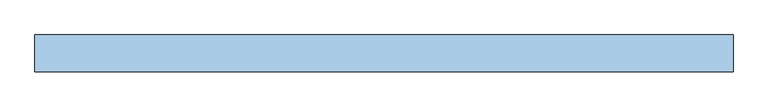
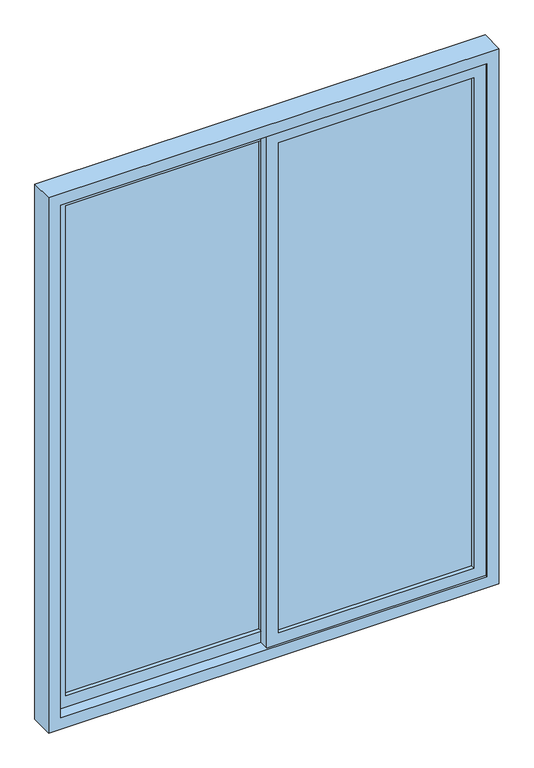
"""IFC4 building model written with IfcOpenShell, lengths in millimetres: window geometry, 雙開落地窗- (1) : 1FL_北面_左側_雙開落地窗_227 x 285cm."""

import ifcopenshell
import ifcopenshell.guid

model = None  # the IFC model being written
_history = None  # IfcOwnerHistory: only IFC2X3 demands one
_inside = {}  # id of a spatial element -> (the spatial element, [elements in it])
_under = {}  # id of a project, library or spatial element -> (it, [spatial elements below it])
_declared = {}  # id of a project -> (the project, [libraries it declares])
_typed = {}  # id of a type object -> (the type object, [elements of that type])
_made_of = {}  # id of a material, layer set ... -> (it, [elements and type objects made of it])


def new_model(schema):
    """Start an empty IFC model of exactly this schema.

    Asked for "IFC4X3", IfcOpenShell would pick the latest addendum, in which some entities
    have other attributes; the version numbers below select the first issue.
    IFC2X3 requires an IfcOwnerHistory on every rooted entity: one is made here for all.
    """
    global model, _history
    if schema == "IFC4X3":
        model = ifcopenshell.file(schema_version=(4, 3, 0, 0))
    else:
        model = ifcopenshell.file(schema=schema)
    _inside.clear()
    _under.clear()
    _declared.clear()
    _typed.clear()
    _made_of.clear()
    _history = None
    if model.schema == "IFC2X3":
        org = make("IfcOrganization", Name="unknown")
        user = make(
            "IfcPersonAndOrganization",
            ThePerson=make("IfcPerson", FamilyName="unknown"),
            TheOrganization=org,
        )
        app = make(
            "IfcApplication",
            ApplicationDeveloper=org,
            Version="unknown",
            ApplicationFullName="unknown",
            ApplicationIdentifier="unknown",
        )
        _history = make(
            "IfcOwnerHistory",
            OwningUser=user,
            OwningApplication=app,
            ChangeAction="ADDED",
            CreationDate=0,
        )
    return model


def make(cls, **values):
    """One entity of the class cls with the attributes given. An attribute that is None is left unset."""
    return model.create_entity(
        cls, **{name: value for name, value in values.items() if value is not None}
    )


def rooted(cls, **values):
    """An entity with a GlobalId (a new one), such as an element, a storey or a relation."""
    return make(cls, GlobalId=ifcopenshell.guid.new(), OwnerHistory=_history, **values)


def si_unit(unit_type, name, prefix=None):
    """IfcSIUnit, for example si_unit("LENGTHUNIT", "METRE", prefix="MILLI")."""
    return make("IfcSIUnit", UnitType=unit_type, Prefix=prefix, Name=name)


def assignment(units):
    """IfcUnitAssignment: the units of a project."""
    return None if units is None else make("IfcUnitAssignment", Units=units)


def point(xyz):
    """IfcCartesianPoint."""
    return None if xyz is None else make("IfcCartesianPoint", Coordinates=xyz)


def direction(xyz):
    """IfcDirection."""
    return None if xyz is None else make("IfcDirection", DirectionRatios=xyz)


def frame(location, z_axis=None, x_axis=None):
    """IfcAxis2Placement3D, a coordinate frame: its origin and axes. An axis left out is left unset."""
    return make(
        "IfcAxis2Placement3D",
        Location=point(location),
        Axis=direction(z_axis),
        RefDirection=direction(x_axis),
    )


def origin():
    """The frame at (0, 0, 0) with its axes left unset."""
    return frame((0.0, 0.0, 0.0))


def place(relative_to, where):
    """IfcLocalPlacement: puts the frame where relative to a parent placement (None: the world)."""
    return make(
        "IfcLocalPlacement", PlacementRelTo=relative_to, RelativePlacement=where
    )


def context(
    kind, dimensions, precision=None, world=None, true_north=None, identifier=None
):
    """IfcGeometricRepresentationContext, for example the 3D "Model" context."""
    return make(
        "IfcGeometricRepresentationContext",
        ContextIdentifier=identifier,
        ContextType=kind,
        CoordinateSpaceDimension=dimensions,
        Precision=precision,
        WorldCoordinateSystem=world,
        TrueNorth=true_north,
    )


def project(units=None, contexts=None):
    """IfcProject with its units and contexts."""
    return rooted(
        "IfcProject",
        Name="project",
        RepresentationContexts=contexts,
        UnitsInContext=assignment(units),
    )


def spatial(cls, under=None, at=None, **own):
    """A site, building, storey or space (cls), placed at a placement, below another one or the project."""
    s = rooted(cls, ObjectPlacement=at, **own)
    if under is not None:
        _under.setdefault(under.id(), (under, []))[1].append(s)
    return s


def polyline(points):
    """IfcPolyline through the points."""
    return make("IfcPolyline", Points=[point(p) for p in points])


def outline(outer, holes=None, kind="AREA"):
    """IfcArbitraryClosedProfileDef: a profile drawn as a closed curve; with holes, ...WithVoids."""
    if holes is None:
        return make("IfcArbitraryClosedProfileDef", ProfileType=kind, OuterCurve=outer)
    return make(
        "IfcArbitraryProfileDefWithVoids",
        ProfileType=kind,
        OuterCurve=outer,
        InnerCurves=holes,
    )


def extrude(swept, where, along, depth):
    """IfcExtrudedAreaSolid: the profile swept, set in the frame where, extruded along a direction by depth."""
    return make(
        "IfcExtrudedAreaSolid",
        SweptArea=swept,
        Position=where,
        ExtrudedDirection=direction(along),
        Depth=depth,
    )


def shape(context_of_items, identifier, shape_type, items):
    """IfcShapeRepresentation: the items that make up one representation, for example the "Body"."""
    return make(
        "IfcShapeRepresentation",
        ContextOfItems=context_of_items,
        RepresentationIdentifier=identifier,
        RepresentationType=shape_type,
        Items=items,
    )


def source(mapping_origin, context_of_items, identifier, shape_type, items):
    """IfcRepresentationMap: a shape defined once, which mapped items show again and again."""
    return make(
        "IfcRepresentationMap",
        MappingOrigin=mapping_origin,
        MappedRepresentation=shape(context_of_items, identifier, shape_type, items),
    )


def transform(
    local_origin,
    x_axis=None,
    y_axis=None,
    z_axis=None,
    scale=None,
    scale2=None,
    scale3=None,
    uniform=True,
):
    """IfcCartesianTransformationOperator3D, or its non-uniform kind. x_axis, y_axis, z_axis: its Axis1, 2, 3."""
    if uniform:
        return make(
            "IfcCartesianTransformationOperator3D",
            Axis1=direction(x_axis),
            Axis2=direction(y_axis),
            LocalOrigin=point(local_origin),
            Scale=scale,
            Axis3=direction(z_axis),
        )
    return make(
        "IfcCartesianTransformationOperator3DnonUniform",
        Axis1=direction(x_axis),
        Axis2=direction(y_axis),
        LocalOrigin=point(local_origin),
        Scale=scale,
        Axis3=direction(z_axis),
        Scale2=scale2,
        Scale3=scale3,
    )


def mapped(mapping_source, mapping_target):
    """IfcMappedItem: shows the shape of a source again, moved by a transform."""
    return make(
        "IfcMappedItem", MappingSource=mapping_source, MappingTarget=mapping_target
    )


def made_of(thing, what):
    """Note that an element or type object is made of a material, layer set ...; save() writes the relation."""
    if what is not None:
        _made_of.setdefault(what.id(), (what, []))[1].append(thing)
    return thing


def element(
    cls,
    number,
    at=None,
    inside=None,
    cuts=None,
    type_object=None,
    material=None,
    context=None,
    identifier="Body",
    shape_type=None,
    held_by="IfcProductDefinitionShape",
    body=None,
    shapes=None,
    **own,
):
    """One element of the class cls, such as IfcWall. Its Tag is "e" and its number.

    at: its placement. inside: the storey or other place that contains it. cuts: it is an
    opening in that element (IfcRelVoidsElement). A single representation is given by context,
    identifier, shape_type and body (its items); several are given by shapes. held_by: the class
    of the entity that holds the representations. save() writes the other relations.
    """
    e = rooted(cls, Tag="e%d" % number, ObjectPlacement=at, **own)
    if body is not None:
        shapes = [shape(context, identifier, shape_type, body)]
    if shapes is not None:
        e.Representation = make(held_by, Representations=shapes)
    if inside is not None:
        _inside.setdefault(inside.id(), (inside, []))[1].append(e)
    if cuts is not None:
        rooted(
            "IfcRelVoidsElement", RelatingBuildingElement=cuts, RelatedOpeningElement=e
        )
    if type_object is not None:
        _typed.setdefault(type_object.id(), (type_object, []))[1].append(e)
    return made_of(e, material)


def aggregate(whole, parts):
    """IfcRelAggregates: a whole, such as a stair, and the parts it consists of."""
    return rooted("IfcRelAggregates", RelatingObject=whole, RelatedObjects=parts)


def save(model, path):
    """Write the relations noted so far, then the file.

    IfcRelAggregates (storeys below a building ...), IfcRelContainedInSpatialStructure (elements
    in a storey), IfcRelDefinesByType, IfcRelAssociatesMaterial and IfcRelDeclares: one each for
    every whole, place, type object, material and project.
    """
    for whole, parts in _under.values():
        aggregate(whole, parts)
    for where, things in _inside.values():
        rooted(
            "IfcRelContainedInSpatialStructure",
            RelatedElements=things,
            RelatingStructure=where,
        )
    for kind, things in _typed.values():
        rooted("IfcRelDefinesByType", RelatedObjects=things, RelatingType=kind)
    for what, things in _made_of.values():
        rooted("IfcRelAssociatesMaterial", RelatedObjects=things, RelatingMaterial=what)
    for by, libraries in _declared.values():
        rooted("IfcRelDeclares", RelatingContext=by, RelatedDefinitions=libraries)
    model.write(path)


def window_17b7d049(model_context):
    return source(origin(), model_context, "Body", "SweptSolid", [
        extrude(outline(polyline([(2790.0, 1075.0), (2790.0, -30.0), (60.0, -30.0), (60.0, 1075.0), (2790.0, 1075.0)]), holes=[polyline([(2730.0, 1015.0), (120.0, 1015.0), (120.0, 30.0), (2730.0, 30.0), (2730.0, 1015.0)])]), frame((0.0, -230.0, 0.0), z_axis=(0.0, 1.0, 0.0), x_axis=(0.0, 0.0, 1.0)), (0.0, 0.0, 1.0), 50.0),
        extrude(outline(polyline([(30.0, -200.0), (1015.0, -200.0), (1015.0, -210.0), (30.0, -210.0), (30.0, -200.0)])), frame((0.0, 0.0, 120.0), z_axis=(0.0, 0.0, 1.0), x_axis=(1.0, 0.0, 0.0)), (0.0, 0.0, 1.0), 2610.0),
        extrude(outline(polyline([(2790.0, 30.0), (2790.0, -1075.0), (60.0, -1075.0), (60.0, 30.0), (2790.0, 30.0)]), holes=[polyline([(2730.0, -30.0), (120.0, -30.0), (120.0, -1015.0), (2730.0, -1015.0), (2730.0, -30.0)])]), frame((0.0, -180.0, 0.0), z_axis=(0.0, 1.0, 0.0), x_axis=(0.0, 0.0, 1.0)), (0.0, 0.0, 1.0), 50.0),
        extrude(outline(polyline([(-1015.0, -160.0), (-1015.0, -150.0), (-30.0, -150.0), (-30.0, -160.0), (-1015.0, -160.0)])), frame((0.0, 0.0, 120.0), z_axis=(0.0, 0.0, 1.0), x_axis=(1.0, 0.0, 0.0)), (0.0, 0.0, 1.0), 2610.0),
        extrude(outline(polyline([(2850.0, 1135.0), (2850.0, -1135.0), (0.0, -1135.0), (0.0, 1135.0), (2850.0, 1135.0)]), holes=[polyline([(2790.0, 1075.0), (60.0, 1075.0), (60.0, -1075.0), (2790.0, -1075.0), (2790.0, 1075.0)])]), frame((0.0, -240.0, 0.0), z_axis=(0.0, 1.0, 0.0), x_axis=(0.0, 0.0, 1.0)), (0.0, 0.0, 1.0), 120.0),
    ])


if __name__ == "__main__":
    model = new_model("IFC4")
    model_context = context("Model", 3, world=origin())
    ifc_project = project(units=[si_unit("LENGTHUNIT", "METRE", prefix="MILLI")], contexts=[model_context])
    site = spatial("IfcSite", under=ifc_project)
    building = spatial("IfcBuilding", under=site)
    placement = place(None, origin())
    window_shape = window_17b7d049(model_context)
    element("IfcWindow", 1, ObjectType="雙開落地窗- (1) : 1FL_北面_左側_雙開落地窗_227 x 285cm", at=placement, inside=building, context=model_context, shape_type="MappedRepresentation", body=[
        mapped(window_shape, transform((0.0, 0.0, 0.0), x_axis=(1.0, 0.0, 0.0), y_axis=(0.0, 1.0, 0.0), z_axis=(0.0, 0.0, 1.0))),
    ])
    save(model, "model.ifc")
